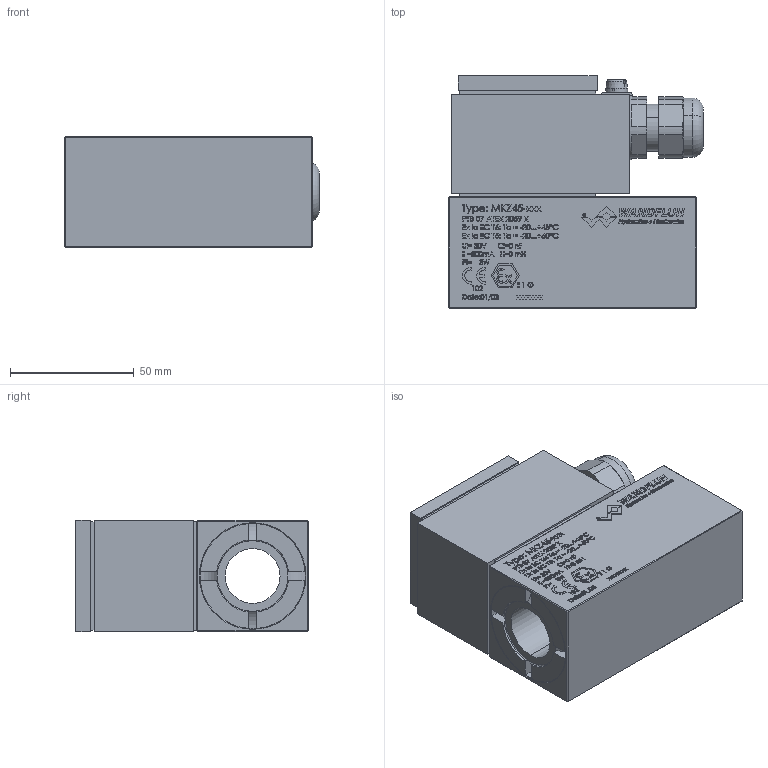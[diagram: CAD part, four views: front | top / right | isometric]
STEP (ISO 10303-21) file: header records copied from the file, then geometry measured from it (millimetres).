
FILE_DESCRIPTION (( 'STEP AP214' ), '1' );
FILE_NAME ('MKZ45.STEP', '2015-07-23T06:46:58', ( '' ), ( '' ), 'SwSTEP 2.0', 'SolidWorks 2014', '' );
FILE_SCHEMA (( 'AUTOMOTIVE_DESIGN' ));
Length unit declared in the file: millimetre
Products named in the file (2): MKZ45
Bounding box: 103 x 94 x 45 mm (x, y, z)
Volume: 318068.6 mm3; surface area: 67669.8 mm2
Topology: 19 solids, 20 shells, 2500 faces, 6490 edges, 4275 vertices
Faces by surface type: plane 1524, bspline 714, cylinder 161, cone 62, torus 39
Entity records: 135575 total; most frequent: CARTESIAN_POINT 51283, ORIENTED_EDGE 12952, DIRECTION 9010, EDGE_CURVE 6476, VECTOR 4462, LINE 4462, VERTEX_POINT 4275, EDGE_LOOP 2791
